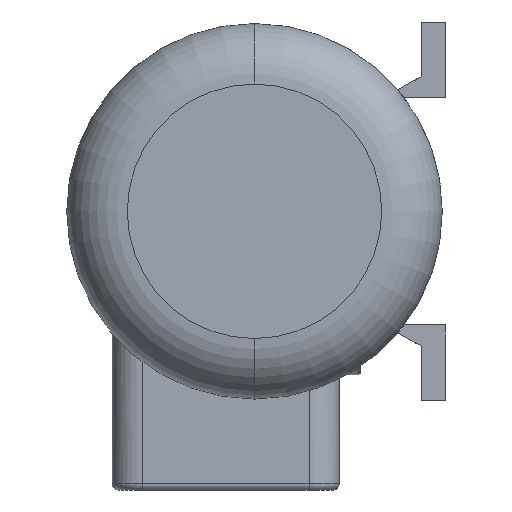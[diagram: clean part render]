
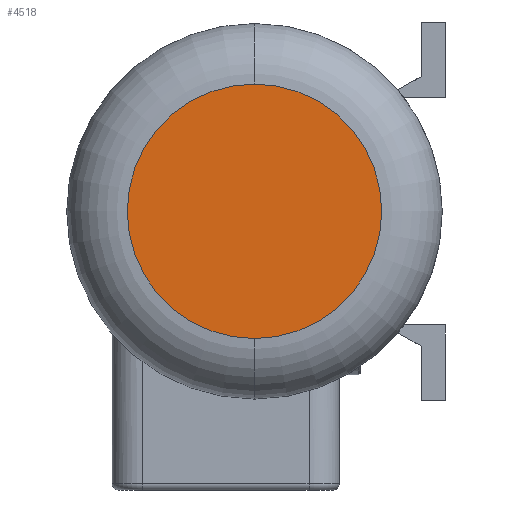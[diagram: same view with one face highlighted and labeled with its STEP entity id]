
A CAD part, left-side view. The second image highlights one B-rep face of the part: STEP entity #4518.
In plain terms, the highlighted planar face has unit normal (-1, 0, 0).
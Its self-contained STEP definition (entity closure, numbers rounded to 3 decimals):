
#251 = CARTESIAN_POINT ( 'NONE',  ( 0., 0., 42. ) ) ;
#792 = DIRECTION ( 'NONE',  ( 0., 0., -1. ) ) ;
#1407 = DIRECTION ( 'NONE',  ( -1., 0., 0. ) ) ;
#2295 = CIRCLE ( 'NONE', #8709, 42. ) ;
#2401 = EDGE_LOOP ( 'NONE', ( #11158, #6576 ) ) ;
#2762 = CARTESIAN_POINT ( 'NONE',  ( 0., 0., 0. ) ) ;
#2844 = AXIS2_PLACEMENT_3D ( 'NONE', #7920, #10195, #4740 ) ;
#4470 = CARTESIAN_POINT ( 'NONE',  ( 0., 0., 0. ) ) ;
#4518 = ADVANCED_FACE ( 'NONE', ( #8143 ), #7865, .F. ) ;
#4740 = DIRECTION ( 'NONE',  ( 0., 0., -1. ) ) ;
#5055 = EDGE_CURVE ( 'NONE', #5883, #7993, #12194, .T. ) ;
#5883 = VERTEX_POINT ( 'NONE', #251 ) ;
#6576 = ORIENTED_EDGE ( 'NONE', *, *, #5055, .T. ) ;
#6677 = DIRECTION ( 'NONE',  ( 0., 0., -1. ) ) ;
#6975 = AXIS2_PLACEMENT_3D ( 'NONE', #2762, #10442, #792 ) ;
#7865 = PLANE ( 'NONE',  #6975 ) ;
#7920 = CARTESIAN_POINT ( 'NONE',  ( 0., 0., 0. ) ) ;
#7993 = VERTEX_POINT ( 'NONE', #10930 ) ;
#8143 = FACE_OUTER_BOUND ( 'NONE', #2401, .T. ) ;
#8709 = AXIS2_PLACEMENT_3D ( 'NONE', #4470, #1407, #6677 ) ;
#10195 = DIRECTION ( 'NONE',  ( -1., 0., 0. ) ) ;
#10442 = DIRECTION ( 'NONE',  ( 1., 0., 0. ) ) ;
#10930 = CARTESIAN_POINT ( 'NONE',  ( 0., 0., -42. ) ) ;
#11158 = ORIENTED_EDGE ( 'NONE', *, *, #11349, .T. ) ;
#11349 = EDGE_CURVE ( 'NONE', #7993, #5883, #2295, .T. ) ;
#12194 = CIRCLE ( 'NONE', #2844, 42. ) ;
